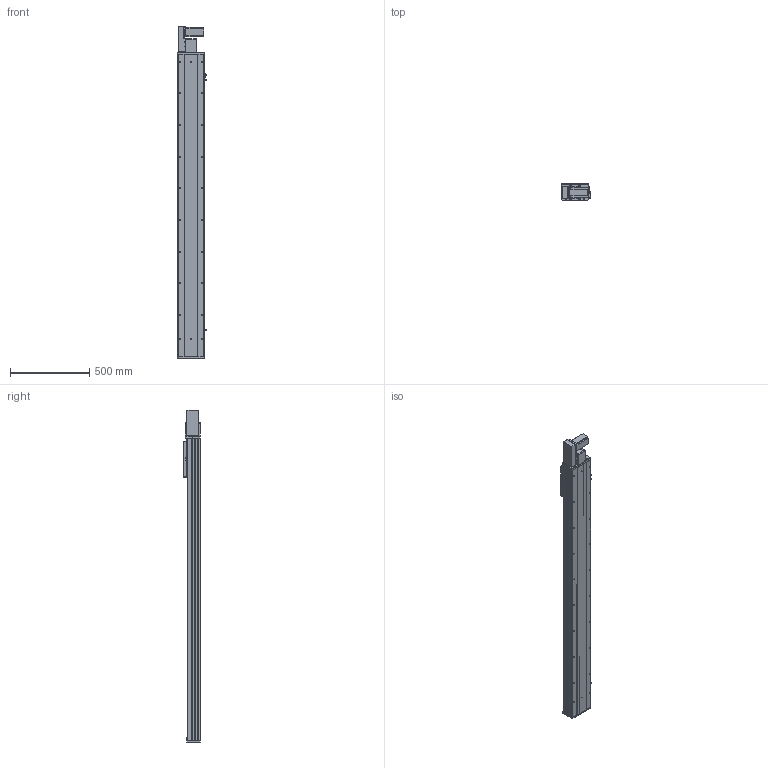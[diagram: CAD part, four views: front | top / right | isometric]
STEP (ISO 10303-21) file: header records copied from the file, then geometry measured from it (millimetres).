
FILE_DESCRIPTION (( 'STEP AP203' ), '1' );
FILE_NAME ('Y170CB-D105-S1600-BL-P400W.STEP', '2020-02-20T01:28:11', ( '微软用户' ), ( '微软中国' ), 'SwSTEP 2.0', 'SolidWorks 2017', '' );
FILE_SCHEMA (( 'CONFIG_CONTROL_DESIGN' ));
Length unit declared in the file: millimetre
Products named in the file (18): Y170CB-D105-S1600-BL-P400W; 70CB--耜裔; 17B-耜蚾蟀諉啣----; 70C-雄赽釱-奻-; 0B-萇儂楊擘啣; 0C--雄赽釱俋欶-170; san松下电机400不带刹车----; 70CB-詩湍--; Y70俋欶BR----; Y100-135俋离換覜ん--; 70CB-掛极-; Y170CB-陔俋离換覜結え---; --70CB --喘謫眊楊擘啣-; 70B喘謫眊----; 70CB-耜裔啣-; Y1埴倛裔; 70C--詩湍揤踡え-; B-源倛裔啣
Assembly tree (21 placements, depth 2):
  Y170CB-D105-S1600-BL-P400W
    B-源倛裔啣
    17B-耜蚾蟀諉啣----
    0B-萇儂楊擘啣
    san松下电机400不带刹车----
    Y70俋欶BR----
    70CB-掛极-
    --70CB --喘謫眊楊擘啣-
    70CB-耜裔啣-  x2
    70C--詩湍揤踡え-  x2
    70CB--耜裔
    70C-雄赽釱-奻-
    0C--雄赽釱俋欶-170
    70CB-詩湍--
    Y100-135俋离換覜ん--  x3
    Y170CB-陔俋离換覜結え---
    70B喘謫眊----
    Y1埴倛裔
Bounding box: 183.5 x 107 x 2097 mm (x, y, z)
Volume: 8900042.2 mm3; surface area: 3201345.7 mm2
Topology: 21 solids, 21 shells, 1031 faces, 2765 edges, 1834 vertices
Faces by surface type: cylinder 543, plane 464, cone 24
Entity records: 32904 total; most frequent: CARTESIAN_POINT 6036, DIRECTION 5350, ORIENTED_EDGE 5012, EDGE_CURVE 2506, AXIS2_PLACEMENT_3D 1964, VERTEX_POINT 1664, VECTOR 1422, LINE 1422
